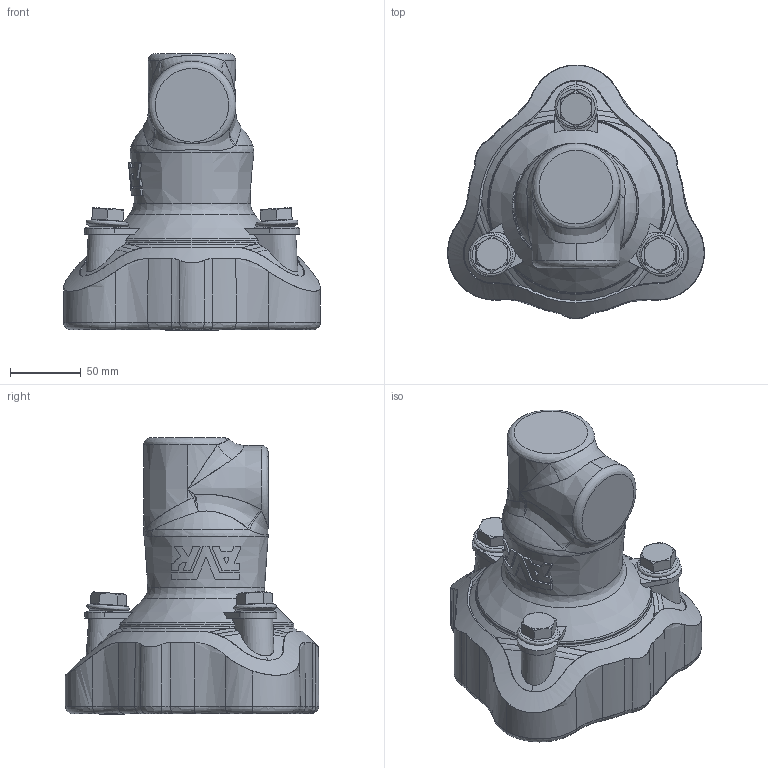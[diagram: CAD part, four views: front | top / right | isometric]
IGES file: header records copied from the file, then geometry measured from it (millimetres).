
Start section: SolidWorks IGES file using analytic representation for surfaces
Global section: file name: \\avksan2\techshare\PBM outline export from Enovia\O_634_00_DN050_048-071mm_AA0_igs.igs; native system: SolidWorks 2012; preprocessor: SolidWorks 2012; author: pbm; date: 160510.111407; units: millimetre
Bounding box: 181.56 x 179.43 x 195.51 mm (x, y, z)
Surface area: 138163.5 mm2 (no closed solid volume)
Topology: 0 solids, 0 shells, 421 faces, 2879 edges, 2854 vertices
Faces by surface type: revolution 236, bspline 185
